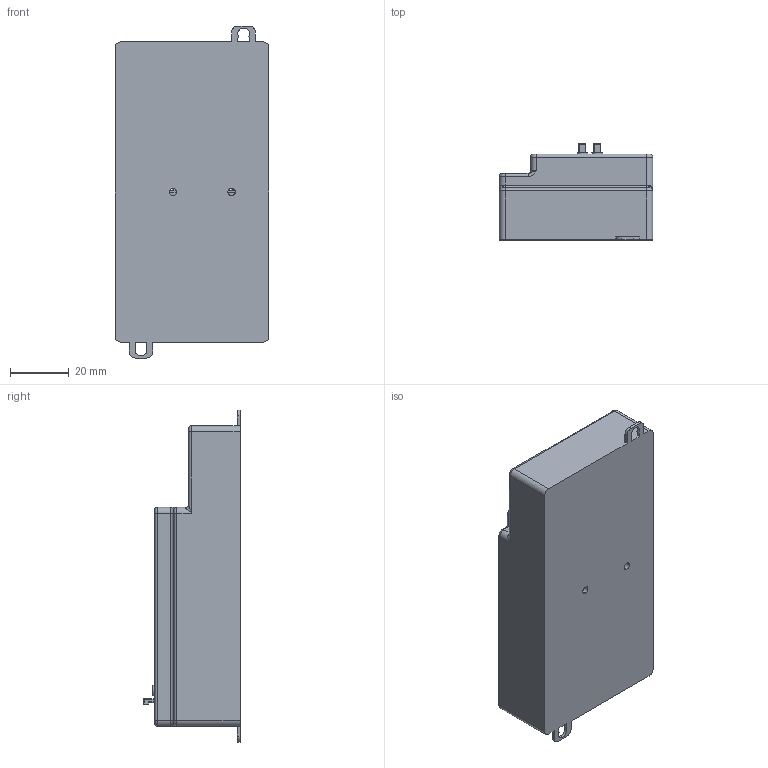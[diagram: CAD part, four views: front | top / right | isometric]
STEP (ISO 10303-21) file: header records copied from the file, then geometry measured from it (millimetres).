
FILE_DESCRIPTION(/* description */ (''),/* implementation_level */ '2;1');
FILE_NAME(/* name */ 'CL16.stp',/* time_stamp */ '2022-01-12T13:43:13+08:00',/* author */ (''),/* organization */ (''),/* preprocessor_version */ 'ST-DEVELOPER v16',/* originating_system */ 'SIEMENS PLM Software NX 10.0',/* authorisation */ '');
FILE_SCHEMA (('AP203_CONFIGURATION_CONTROLLED_3D_DESIGN_OF_MECHANICAL_PARTS_AND_ASSEMBLIES_MIM_LF { 1 0 10303 403 2 1 2}'));
Products named in the file (1): 73494C188C73kmz0
Bounding box: 52.4 x 32.8 x 113.2 mm (x, y, z)
Volume: 114611.1 mm3; surface area: 50238.5 mm2
Topology: 25 solids, 27 shells, 4111 faces, 11128 edges, 7191 vertices
Faces by surface type: plane 3080, cylinder 675, bspline 250, torus 98, sphere 8
Entity records: 137476 total; most frequent: CARTESIAN_POINT 34365, ORIENTED_EDGE 22234, DIRECTION 19923, EDGE_CURVE 11117, LINE 8831, VECTOR 8831, VERTEX_POINT 7191, AXIS2_PLACEMENT_3D 5546
